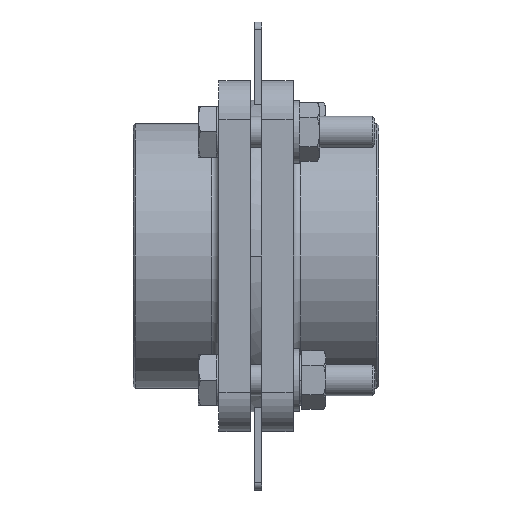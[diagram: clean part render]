
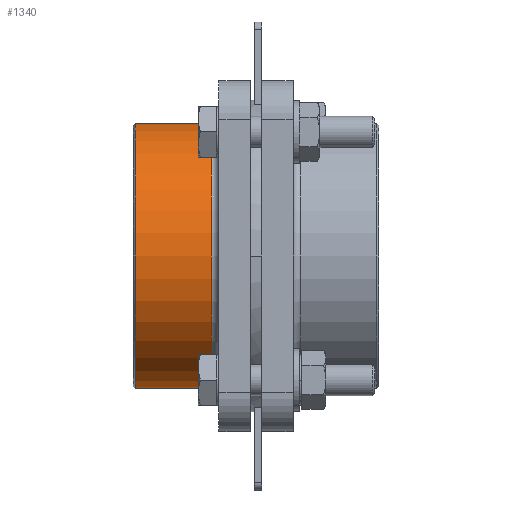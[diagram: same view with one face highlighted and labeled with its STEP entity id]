
A CAD part, left-side view. The second image highlights one B-rep face of the part: STEP entity #1340.
In plain terms, the highlighted cylindrical face has radius 34 mm (diameter 68 mm), a partial arc.
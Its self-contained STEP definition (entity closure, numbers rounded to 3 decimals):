
#1340 = ADVANCED_FACE ( 'NONE', ( #9489 ), #9499, .T. ) ;
#3141 = AXIS2_PLACEMENT_3D ( 'NONE', #14222, #14223, #14231 ) ;
#3794 = CARTESIAN_POINT ( 'NONE',  ( 1.279, 4.055, 37.364 ) ) ;
#4109 = CARTESIAN_POINT ( 'NONE',  ( 1.279, 23.555, 3.364 ) ) ;
#4110 = DIRECTION ( 'NONE',  ( 0., -1., 0. ) ) ;
#4111 = DIRECTION ( 'NONE',  ( 0., 0., 1. ) ) ;
#4183 = CARTESIAN_POINT ( 'NONE',  ( 1.279, 4.055, 3.364 ) ) ;
#4184 = DIRECTION ( 'NONE',  ( 0., -1., 0. ) ) ;
#4185 = DIRECTION ( 'NONE',  ( 0., 0., -1. ) ) ;
#4186 = CARTESIAN_POINT ( 'NONE',  ( 1.279, -5.945, -30.636 ) ) ;
#4187 = DIRECTION ( 'NONE',  ( 0., -1., 0. ) ) ;
#4191 = CARTESIAN_POINT ( 'NONE',  ( 1.279, -5.945, 37.364 ) ) ;
#4192 = DIRECTION ( 'NONE',  ( 0., -1., 0. ) ) ;
#4511 = VERTEX_POINT ( 'NONE', #3794 ) ;
#6151 = ORIENTED_EDGE ( 'NONE', *, *, #7955, .F. ) ;
#6152 = ORIENTED_EDGE ( 'NONE', *, *, #7922, .T. ) ;
#6153 = ORIENTED_EDGE ( 'NONE', *, *, #7953, .T. ) ;
#6154 = ORIENTED_EDGE ( 'NONE', *, *, #7950, .F. ) ;
#6251 = EDGE_LOOP ( 'NONE', ( #6151, #6152, #6153, #6154 ) ) ;
#7922 = EDGE_CURVE ( 'NONE', #11778, #11780, #11562, .T. ) ;
#7950 = EDGE_CURVE ( 'NONE', #4511, #11752, #11598, .T. ) ;
#7953 = EDGE_CURVE ( 'NONE', #11780, #11752, #11602, .T. ) ;
#7955 = EDGE_CURVE ( 'NONE', #11778, #4511, #11605, .T. ) ;
#8911 = CARTESIAN_POINT ( 'NONE',  ( 1.279, 4.055, -30.636 ) ) ;
#8937 = CARTESIAN_POINT ( 'NONE',  ( 1.279, 23.555, 37.364 ) ) ;
#8939 = CARTESIAN_POINT ( 'NONE',  ( 1.279, 23.555, -30.636 ) ) ;
#9489 = FACE_OUTER_BOUND ( 'NONE', #6251, .T. ) ;
#9499 = CYLINDRICAL_SURFACE ( 'NONE', #3141, 34. ) ;
#11562 = CIRCLE ( 'NONE', #13976, 34. ) ;
#11598 = CIRCLE ( 'NONE', #13996, 34. ) ;
#11602 = LINE ( 'NONE', #4186, #11604 ) ;
#11604 = VECTOR ( 'NONE', #4187, 1000. ) ;
#11605 = LINE ( 'NONE', #4191, #11607 ) ;
#11607 = VECTOR ( 'NONE', #4192, 1000. ) ;
#11752 = VERTEX_POINT ( 'NONE', #8911 ) ;
#11778 = VERTEX_POINT ( 'NONE', #8937 ) ;
#11780 = VERTEX_POINT ( 'NONE', #8939 ) ;
#13976 = AXIS2_PLACEMENT_3D ( 'NONE', #4109, #4110, #4111 ) ;
#13996 = AXIS2_PLACEMENT_3D ( 'NONE', #4183, #4184, #4185 ) ;
#14222 = CARTESIAN_POINT ( 'NONE',  ( 1.279, -5.945, 3.364 ) ) ;
#14223 = DIRECTION ( 'NONE',  ( 0., -1., 0. ) ) ;
#14231 = DIRECTION ( 'NONE',  ( 0., 0., -1. ) ) ;
